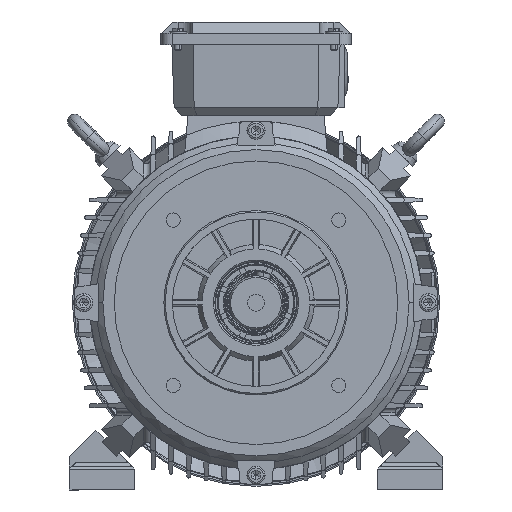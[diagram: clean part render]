
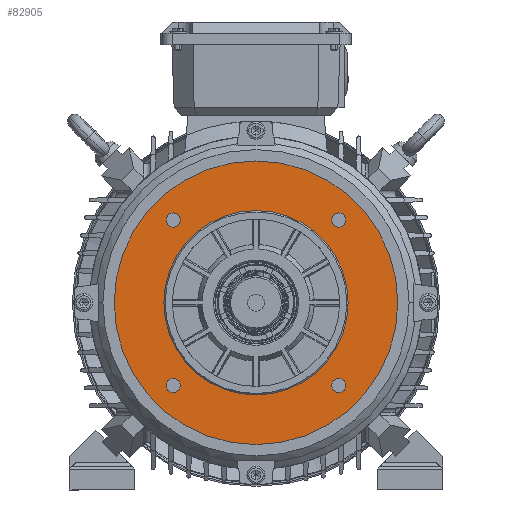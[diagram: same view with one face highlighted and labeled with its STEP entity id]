
A CAD part, left-side view. The second image highlights one B-rep face of the part: STEP entity #82905.
In plain terms, the highlighted planar face has unit normal (-1, 0, 0).
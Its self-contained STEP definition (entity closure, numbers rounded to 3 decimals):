
#328 = AXIS2_PLACEMENT_3D ( 'NONE', #58344, #68935, #8815 ) ;
#1063 = EDGE_CURVE ( 'NONE', #142898, #47671, #125246, .T. ) ;
#2071 = CARTESIAN_POINT ( 'NONE',  ( -137.49, -61.26, -60.325 ) ) ;
#2241 = EDGE_LOOP ( 'NONE', ( #54400, #134628 ) ) ;
#2805 = CARTESIAN_POINT ( 'NONE',  ( -137.49, -66.26, -60.325 ) ) ;
#5139 = CIRCLE ( 'NONE', #54410, 65. ) ;
#5166 = CIRCLE ( 'NONE', #328, 100. ) ;
#5500 = DIRECTION ( 'NONE',  ( 0., 1., 0. ) ) ;
#6530 = EDGE_LOOP ( 'NONE', ( #82837, #98952 ) ) ;
#8815 = DIRECTION ( 'NONE',  ( 0., 1., 0. ) ) ;
#8892 = VERTEX_POINT ( 'NONE', #81234 ) ;
#9512 = EDGE_CURVE ( 'NONE', #11456, #94078, #5139, .T. ) ;
#10096 = EDGE_CURVE ( 'NONE', #152644, #159236, #75313, .T. ) ;
#11083 = DIRECTION ( 'NONE',  ( 0., 1., 0. ) ) ;
#11456 = VERTEX_POINT ( 'NONE', #13138 ) ;
#11667 = CARTESIAN_POINT ( 'NONE',  ( -137.49, -66.26, 56.348 ) ) ;
#13138 = CARTESIAN_POINT ( 'NONE',  ( -137.49, -67.924, -1.988 ) ) ;
#13551 = DIRECTION ( 'NONE',  ( 0., 1., 0. ) ) ;
#14060 = CIRCLE ( 'NONE', #16700, 5. ) ;
#15452 = CIRCLE ( 'NONE', #67346, 5. ) ;
#16030 = CARTESIAN_POINT ( 'NONE',  ( -137.49, 55.413, -60.325 ) ) ;
#16700 = AXIS2_PLACEMENT_3D ( 'NONE', #16030, #92284, #78527 ) ;
#19396 = VERTEX_POINT ( 'NONE', #2805 ) ;
#20092 = EDGE_CURVE ( 'NONE', #159236, #152644, #14060, .T. ) ;
#20527 = ORIENTED_EDGE ( 'NONE', *, *, #154405, .T. ) ;
#20863 = CARTESIAN_POINT ( 'NONE',  ( -137.49, 60.413, 56.348 ) ) ;
#25142 = VERTEX_POINT ( 'NONE', #20863 ) ;
#26200 = EDGE_LOOP ( 'NONE', ( #20527, #34492 ) ) ;
#26326 = AXIS2_PLACEMENT_3D ( 'NONE', #151705, #80192, #5500 ) ;
#31539 = CIRCLE ( 'NONE', #26326, 65. ) ;
#32077 = AXIS2_PLACEMENT_3D ( 'NONE', #2071, #138512, #11083 ) ;
#32202 = DIRECTION ( 'NONE',  ( 0., 1., 0. ) ) ;
#34492 = ORIENTED_EDGE ( 'NONE', *, *, #133316, .T. ) ;
#37343 = FACE_BOUND ( 'NONE', #107318, .T. ) ;
#38799 = EDGE_LOOP ( 'NONE', ( #79380, #55260 ) ) ;
#38926 = CARTESIAN_POINT ( 'NONE',  ( -137.49, -2.924, -101.988 ) ) ;
#39141 = CARTESIAN_POINT ( 'NONE',  ( -137.49, 50.413, 56.348 ) ) ;
#44573 = CARTESIAN_POINT ( 'NONE',  ( -137.49, -61.26, -60.325 ) ) ;
#46162 = EDGE_CURVE ( 'NONE', #25142, #144311, #75152, .T. ) ;
#46951 = AXIS2_PLACEMENT_3D ( 'NONE', #38926, #90029, #73853 ) ;
#46960 = DIRECTION ( 'NONE',  ( 0., 1., 0. ) ) ;
#47671 = VERTEX_POINT ( 'NONE', #11667 ) ;
#52560 = AXIS2_PLACEMENT_3D ( 'NONE', #44573, #94882, #46960 ) ;
#54207 = EDGE_CURVE ( 'NONE', #47671, #142898, #15452, .T. ) ;
#54400 = ORIENTED_EDGE ( 'NONE', *, *, #10096, .F. ) ;
#54410 = AXIS2_PLACEMENT_3D ( 'NONE', #73476, #157902, #146562 ) ;
#55260 = ORIENTED_EDGE ( 'NONE', *, *, #54207, .F. ) ;
#55755 = CARTESIAN_POINT ( 'NONE',  ( -137.49, -2.924, -1.988 ) ) ;
#58344 = CARTESIAN_POINT ( 'NONE',  ( -137.49, -2.924, -1.988 ) ) ;
#58719 = AXIS2_PLACEMENT_3D ( 'NONE', #55755, #93900, #32202 ) ;
#59670 = CIRCLE ( 'NONE', #150461, 5. ) ;
#63008 = ORIENTED_EDGE ( 'NONE', *, *, #82108, .F. ) ;
#67346 = AXIS2_PLACEMENT_3D ( 'NONE', #93710, #106668, #73348 ) ;
#68828 = CARTESIAN_POINT ( 'NONE',  ( -137.49, 55.413, 56.348 ) ) ;
#68935 = DIRECTION ( 'NONE',  ( -1., 0., 0. ) ) ;
#73348 = DIRECTION ( 'NONE',  ( 0., 1., 0. ) ) ;
#73476 = CARTESIAN_POINT ( 'NONE',  ( -137.49, -2.924, -1.988 ) ) ;
#73698 = DIRECTION ( 'NONE',  ( -1., 0., 0. ) ) ;
#73853 = DIRECTION ( 'NONE',  ( 0., 0., -1. ) ) ;
#74286 = CIRCLE ( 'NONE', #58719, 100. ) ;
#74363 = EDGE_CURVE ( 'NONE', #8892, #19396, #143271, .T. ) ;
#75152 = CIRCLE ( 'NONE', #160666, 5. ) ;
#75313 = CIRCLE ( 'NONE', #88309, 5. ) ;
#78527 = DIRECTION ( 'NONE',  ( 0., 1., 0. ) ) ;
#79380 = ORIENTED_EDGE ( 'NONE', *, *, #1063, .F. ) ;
#80192 = DIRECTION ( 'NONE',  ( -1., 0., 0. ) ) ;
#81234 = CARTESIAN_POINT ( 'NONE',  ( -137.49, -56.26, -60.325 ) ) ;
#82108 = EDGE_CURVE ( 'NONE', #144311, #25142, #59670, .T. ) ;
#82837 = ORIENTED_EDGE ( 'NONE', *, *, #99663, .F. ) ;
#82905 = ADVANCED_FACE ( 'NONE', ( #100599, #88451, #37343, #148575, #160699, #139527 ), #113560, .F. ) ;
#85892 = CARTESIAN_POINT ( 'NONE',  ( -137.49, 55.413, -60.325 ) ) ;
#86639 = CARTESIAN_POINT ( 'NONE',  ( -137.49, -61.26, 56.348 ) ) ;
#87497 = ORIENTED_EDGE ( 'NONE', *, *, #74363, .F. ) ;
#88309 = AXIS2_PLACEMENT_3D ( 'NONE', #85892, #73698, #135407 ) ;
#88451 = FACE_BOUND ( 'NONE', #38799, .T. ) ;
#90029 = DIRECTION ( 'NONE',  ( 1., 0., 0. ) ) ;
#92284 = DIRECTION ( 'NONE',  ( -1., 0., 0. ) ) ;
#92382 = CARTESIAN_POINT ( 'NONE',  ( -137.49, 97.076, -1.988 ) ) ;
#93710 = CARTESIAN_POINT ( 'NONE',  ( -137.49, -61.26, 56.348 ) ) ;
#93900 = DIRECTION ( 'NONE',  ( -1., 0., 0. ) ) ;
#94078 = VERTEX_POINT ( 'NONE', #146451 ) ;
#94882 = DIRECTION ( 'NONE',  ( -1., 0., 0. ) ) ;
#97414 = CARTESIAN_POINT ( 'NONE',  ( -137.49, 50.413, -60.325 ) ) ;
#98952 = ORIENTED_EDGE ( 'NONE', *, *, #9512, .F. ) ;
#99599 = VERTEX_POINT ( 'NONE', #92382 ) ;
#99663 = EDGE_CURVE ( 'NONE', #94078, #11456, #31539, .T. ) ;
#100599 = FACE_OUTER_BOUND ( 'NONE', #26200, .T. ) ;
#101224 = ORIENTED_EDGE ( 'NONE', *, *, #46162, .F. ) ;
#104501 = DIRECTION ( 'NONE',  ( 0., 1., 0. ) ) ;
#106668 = DIRECTION ( 'NONE',  ( -1., 0., 0. ) ) ;
#107318 = EDGE_LOOP ( 'NONE', ( #101224, #63008 ) ) ;
#108498 = EDGE_LOOP ( 'NONE', ( #87497, #113184 ) ) ;
#108634 = VERTEX_POINT ( 'NONE', #127546 ) ;
#112344 = AXIS2_PLACEMENT_3D ( 'NONE', #86639, #123942, #13551 ) ;
#113184 = ORIENTED_EDGE ( 'NONE', *, *, #137322, .F. ) ;
#113560 = PLANE ( 'NONE',  #46951 ) ;
#116649 = CARTESIAN_POINT ( 'NONE',  ( -137.49, 55.413, 56.348 ) ) ;
#119039 = DIRECTION ( 'NONE',  ( -1., 0., 0. ) ) ;
#123942 = DIRECTION ( 'NONE',  ( -1., 0., 0. ) ) ;
#125246 = CIRCLE ( 'NONE', #112344, 5. ) ;
#127546 = CARTESIAN_POINT ( 'NONE',  ( -137.49, -102.924, -1.988 ) ) ;
#127915 = CIRCLE ( 'NONE', #32077, 5. ) ;
#131333 = DIRECTION ( 'NONE',  ( -1., 0., 0. ) ) ;
#133316 = EDGE_CURVE ( 'NONE', #108634, #99599, #5166, .T. ) ;
#134628 = ORIENTED_EDGE ( 'NONE', *, *, #20092, .F. ) ;
#135407 = DIRECTION ( 'NONE',  ( 0., 1., 0. ) ) ;
#137322 = EDGE_CURVE ( 'NONE', #19396, #8892, #127915, .T. ) ;
#138512 = DIRECTION ( 'NONE',  ( -1., 0., 0. ) ) ;
#139119 = CARTESIAN_POINT ( 'NONE',  ( -137.49, -56.26, 56.348 ) ) ;
#139527 = FACE_BOUND ( 'NONE', #6530, .T. ) ;
#140060 = CARTESIAN_POINT ( 'NONE',  ( -137.49, 60.413, -60.325 ) ) ;
#142898 = VERTEX_POINT ( 'NONE', #139119 ) ;
#143271 = CIRCLE ( 'NONE', #52560, 5. ) ;
#144311 = VERTEX_POINT ( 'NONE', #39141 ) ;
#146451 = CARTESIAN_POINT ( 'NONE',  ( -137.49, 62.076, -1.988 ) ) ;
#146562 = DIRECTION ( 'NONE',  ( 0., 1., 0. ) ) ;
#148575 = FACE_BOUND ( 'NONE', #2241, .T. ) ;
#150461 = AXIS2_PLACEMENT_3D ( 'NONE', #68828, #131333, #157286 ) ;
#151705 = CARTESIAN_POINT ( 'NONE',  ( -137.49, -2.924, -1.988 ) ) ;
#152644 = VERTEX_POINT ( 'NONE', #140060 ) ;
#154405 = EDGE_CURVE ( 'NONE', #99599, #108634, #74286, .T. ) ;
#157286 = DIRECTION ( 'NONE',  ( 0., 1., 0. ) ) ;
#157902 = DIRECTION ( 'NONE',  ( -1., 0., 0. ) ) ;
#159236 = VERTEX_POINT ( 'NONE', #97414 ) ;
#160666 = AXIS2_PLACEMENT_3D ( 'NONE', #116649, #119039, #104501 ) ;
#160699 = FACE_BOUND ( 'NONE', #108498, .T. ) ;
